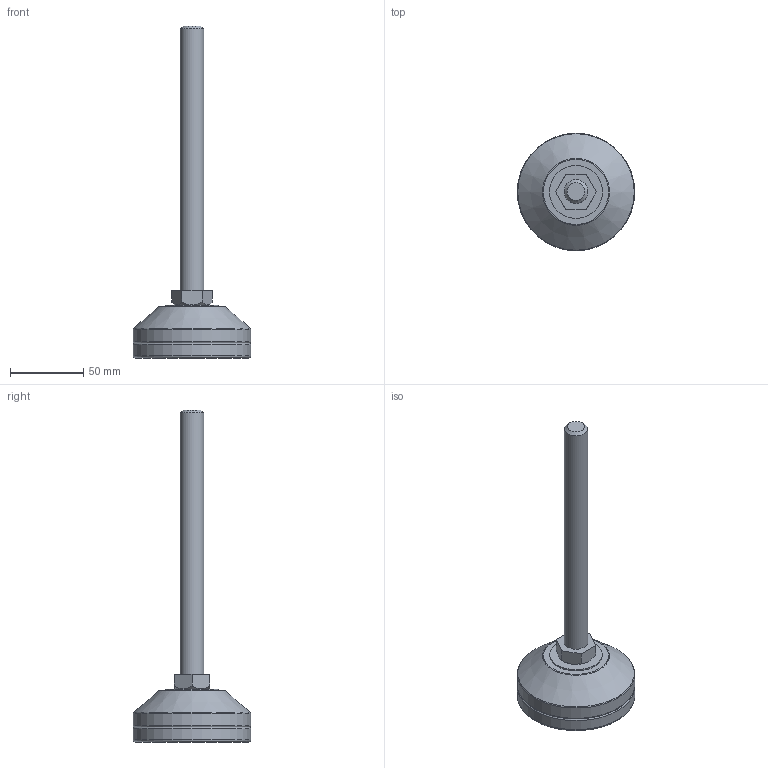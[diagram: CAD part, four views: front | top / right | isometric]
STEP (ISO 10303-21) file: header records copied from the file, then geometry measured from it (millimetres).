
FILE_DESCRIPTION(/* description */ (''),/* implementation_level */ '2;1');
FILE_NAME(/* name */ 'D:\조절자\FR\FR-M16-180L.stp',/* time_stamp */ '2016-03-14T14:38:01+09:00',/* author */ ('GS-DT-1-001'),/* organization */ (''),/* preprocessor_version */ 'ST-DEVELOPER v15.6',/* originating_system */ 'Autodesk Inventor LT ',/* authorisation */ '');
FILE_SCHEMA (('AUTOMOTIVE_DESIGN { 1 0 10303 214 3 1 1 }'));
Length unit declared in the file: millimetre
Products named in the file (1): FR-M16-180L
Bounding box: 80 x 80 x 226 mm (x, y, z)
Volume: 159135.9 mm3; surface area: 36466.8 mm2
Topology: 1 solids, 5 shells, 50 faces, 87 edges, 53 vertices
Faces by surface type: plane 22, cylinder 14, cone 8, torus 6
Full cylindrical faces by diameter (mm): 6.912 x1, 8 x1, 8.2 x1, 8.3 x1, 16 x2, 36 x1, 50 x1, 57 x1, 61 x1, 71 x1, 75 x1, 80 x2
Entity records: 1060 total; most frequent: DIRECTION 194, CARTESIAN_POINT 173, ORIENTED_EDGE 116, AXIS2_PLACEMENT_3D 91, EDGE_LOOP 88, EDGE_CURVE 58, VERTEX_POINT 52, FACE_OUTER_BOUND 50
